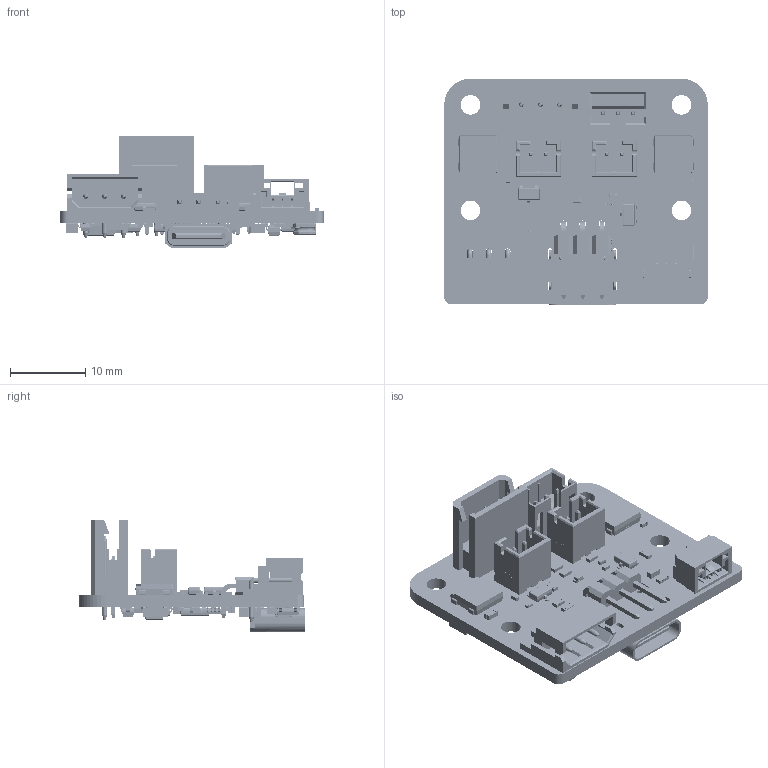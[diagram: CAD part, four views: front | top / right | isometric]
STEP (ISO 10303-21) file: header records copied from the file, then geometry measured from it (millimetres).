
FILE_DESCRIPTION(/* description */ ('Designed by EasyEDA Pro'),/* implementation_level */ '2;1');
FILE_NAME(/* name */ 'TTL_Node_(A).step',/* time_stamp */ '2025-12-19T19:39:16+08:00',/* author */ (''),/* organization */ (''),/* preprocessor_version */ 'ST-DEVELOPER v20.1',/* originating_system */ 'Autodesk Translation Framework v14.21.0.0',/* authorisation */ '');
FILE_SCHEMA (('AUTOMOTIVE_DESIGN { 1 0 10303 214 3 1 1 }'));
Products named in the file (60): EasyEDA PCB Model~BIor; Board~BIor; R14~R0402~R0402_L1.0-W0.5-H0.5~BIor; R0402~R0402_L1.0-W0.5-H0.5~BIor; D5~SOD-123_L2.8-W1.8-LS3.7-RD~SOD-123_L2.8-W1.8-LS3.7-RD~BIor; SOD-123_L2.8-W1.8-LS3.7-RD~SOD-123_L2.8-W1.8-LS3.7-RD~BIor; U3~SOT-89-3_L4.5-W2.5-P1.50-LS4.2-BR~SOT-89-3_L4.3-W2.5-H1.6-LS4.1-P1.
50~BIor; SOT-89-3_L4.5-W2.5-P1.50-LS4.2-BR~SOT-89-3_L4.3-W2.5-H1.6-LS4.1-P1.50
~BIor; Q1~PRPAK-8_L3.1-W3.2-P0.65-LS3.4-BL-EP2~PRPAK-8_L3.1-W3.2-P0.65-LS3.4
-BL-EP2~BIor; PRPAK-8_L3.1-W3.2-P0.65-LS3.4-BL-EP2~PRPAK-8_L3.1-W3.2-P0.65-LS3.4-BL
-EP2~BIor; D4~SOT-23_L2.9-W1.3-P1.90-LS2.4-BR~SOT-23-3P_L2.9-W1.3-H1.0-LS2.4-P0.
95~BIor; SOT-23_L2.9-W1.3-P1.90-LS2.4-BR~SOT-23-3P_L2.9-W1.3-H1.0-LS2.4-P0.95~
BIor; C9~C1206~C1206_L3.2-W1.6-H1.3~BIor; C1206~C1206_L3.2-W1.6-H1.3~BIor; U2~TQFN-16_L3.0-W3.0-P0.50-BL-EP1.7~TQFN-16_L3.0-W3.0-P0.50-BL-EP1.7~
BIor; TQFN-16_L3.0-W3.0-P0.50-BL-EP1.7~TQFN-16_L3.0-W3.0-P0.50-BL-EP1.7~BIo
r; USB1~USB-C-SMD_TYPE-C-6PIN-2MD-073~USB-C-SMD_TYPE-C-6PIN-2MD-073~BIor; USB-C-SMD_TYPE-C-6PIN-2MD-073~USB-C-SMD_TYPE-C-6PIN-2MD-073~BIor; U5~VSSOP-8_L2.3-W2.0-P0.50-LS3.1-BR~VSSOP-8_L2.3-W2.0-P0.50-LS3.1-BL~
BIor; VSSOP-8_L2.3-W2.0-P0.50-LS3.1-BR~VSSOP-8_L2.3-W2.0-P0.50-LS3.1-BL~BIo
r; LED~LED-SMD_4P-L1.6-W0.8-TL-RD-1~LED-SMD_4P-L1.6-W0.8-H0.6-TR-RD~BIor; LED-SMD_4P-L1.6-W0.8-TL-RD-1~LED-SMD_4P-L1.6-W0.8-H0.6-TR-RD~BIor; D7~SOD-123FL_L2.7-W1.8-LS3.8-RD~SOD-123FL_L2.8-W1.8-H1.1-LS3.6~BIor; SOD-123FL_L2.7-W1.8-LS3.8-RD~SOD-123FL_L2.8-W1.8-H1.1-LS3.6~BIor; CN1~CONN-TH_5264-3A~CONN-TH_5264-3A~BIor; CONN-TH_5264-3A~CONN-TH_5264-3A~BIor; CN4~CONN-SMD_3P-P1.25_BX-GH1.25-3PWT~CONN-SMD_3P-P1.25_BX-GH1.25-3PWT
~BIor; CONN-SMD_3P-P1.25_BX-GH1.25-3PWT~CONN-SMD_3P-P1.25_BX-GH1.25-3PWT~BIo
r; CN3~CONN-TH_PH2.0D-L-3P~CONN-TH_PH2.0D-L-3P~BIor; CONN-TH_PH2.0D-L-3P~CONN-TH_PH2.0D-L-3P~BIor; C23~C0603~C0603_L1.6-W0.8-H0.8~BIor; C0603~C0603_L1.6-W0.8-H0.8~BIor; CN2~CONN-TH_3P-P2.50_HCTL_HC-5264-3AW~CONN-TH_3P-P2.50_HCTL_HC-5264-3
AW~BIor; CONN-TH_3P-P2.50_HCTL_HC-5264-3AW~CONN-TH_3P-P2.50_HCTL_HC-5264-3AW~B
Ior; U1~QFN-20_L3.0-W3.0-P0.40-TL-EP1.7~QFN-20_L3.0-W3.0-H0.6-P0.40-BL~BIo
r; QFN-20_L3.0-W3.0-P0.40-TL-EP1.7~QFN-20_L3.0-W3.0-H0.6-P0.40-BL~BIor; CN7~HDR-TH_3P-P2.54-H-M-W10.4-N~HDR-TH_3P-P2.54-H-M-W10.4-N~BIor; HDR-TH_3P-P2.54-H-M-W10.4-N~HDR-TH_3P-P2.54-H-M-W10.4-N~BIor; L1~IND-SMD_L3.0-W3.0~IND-SMD_L3.0-W3.0-H1.5~BIor; IND-SMD_L3.0-W3.0~IND-SMD_L3.0-W3.0-H1.5~BIor ...
Assembly tree (103 placements, depth 3):
  EasyEDA PCB Model~BIor
    Board~BIor
    R17~R0603~R0603~BIor  x15
      R0603~R0603~BIor
    R14~R0402~R0402_L1.0-W0.5-H0.5~BIor
      R0402~R0402_L1.0-W0.5-H0.5~BIor
    D5~SOD-123_L2.8-W1.8-LS3.7-RD~SOD-123_L2.8-W1.8-LS3.7-RD~BIor
      SOD-123_L2.8-W1.8-LS3.7-RD~SOD-123_L2.8-W1.8-LS3.7-RD~BIor
    U3~SOT-89-3_L4.5-W2.5-P1.50-LS4.2-BR~SOT-89-3_L4.3-W2.5-H1.6-LS4.1-P1.
50~BIor
      SOT-89-3_L4.5-W2.5-P1.50-LS4.2-BR~SOT-89-3_L4.3-W2.5-H1.6-LS4.1-P1.50
~BIor
    Q1~PRPAK-8_L3.1-W3.2-P0.65-LS3.4-BL-EP2~PRPAK-8_L3.1-W3.2-P0.65-LS3.4
-BL-EP2~BIor
      PRPAK-8_L3.1-W3.2-P0.65-LS3.4-BL-EP2~PRPAK-8_L3.1-W3.2-P0.65-LS3.4-BL
-EP2~BIor
    C10~C0402~C0402_L1.0-W0.5-H0.5~BIor  x16
      C0402~C0402_L1.0-W0.5-H0.5~BIor
    D4~SOT-23_L2.9-W1.3-P1.90-LS2.4-BR~SOT-23-3P_L2.9-W1.3-H1.0-LS2.4-P0.
95~BIor
      SOT-23_L2.9-W1.3-P1.90-LS2.4-BR~SOT-23-3P_L2.9-W1.3-H1.0-LS2.4-P0.95~
BIor
    C9~C1206~C1206_L3.2-W1.6-H1.3~BIor
      C1206~C1206_L3.2-W1.6-H1.3~BIor
    F2~F0603~F0603_L1.7-W0.9-H0.7~BIor  x2
      F0603~F0603_L1.7-W0.9-H0.7~BIor
    D9~SOT-23-3_L2.9-W1.6-P1.90-LS2.8-BR~SOT-23-3L_L2.9-W1.6-H1.1-LS2.8-P
0.95~BIor  x5
      SOT-23-3_L3.0-W1.7-P0.95-LS2.9-BR~SOT-23-3L_L2.9-W1.6-H1.1-LS2.8-P0.9
5~BIor
    C12~C0805~C0805_L2.0-W1.3-H1.3~BIor  x5
      C0805~C0805_L2.0-W1.3-H1.3~BIor
    U2~TQFN-16_L3.0-W3.0-P0.50-BL-EP1.7~TQFN-16_L3.0-W3.0-P0.50-BL-EP1.7~
BIor
      TQFN-16_L3.0-W3.0-P0.50-BL-EP1.7~TQFN-16_L3.0-W3.0-P0.50-BL-EP1.7~BIo
r
    R3~R0402~R0402_L1.0-W0.5-H0.4~BIor  x4
      R0402~R0402_L1.0-W0.5-H0.4~BIor
    USB1~USB-C-SMD_TYPE-C-6PIN-2MD-073~USB-C-SMD_TYPE-C-6PIN-2MD-073~BIor
      USB-C-SMD_TYPE-C-6PIN-2MD-073~USB-C-SMD_TYPE-C-6PIN-2MD-073~BIor
    U5~VSSOP-8_L2.3-W2.0-P0.50-LS3.1-BR~VSSOP-8_L2.3-W2.0-P0.50-LS3.1-BL~
BIor
      VSSOP-8_L2.3-W2.0-P0.50-LS3.1-BR~VSSOP-8_L2.3-W2.0-P0.50-LS3.1-BL~BIo
r
    LED~LED-SMD_4P-L1.6-W0.8-TL-RD-1~LED-SMD_4P-L1.6-W0.8-H0.6-TR-RD~BIor
      LED-SMD_4P-L1.6-W0.8-TL-RD-1~LED-SMD_4P-L1.6-W0.8-H0.6-TR-RD~BIor
    D7~SOD-123FL_L2.7-W1.8-LS3.8-RD~SOD-123FL_L2.8-W1.8-H1.1-LS3.6~BIor
      SOD-123FL_L2.7-W1.8-LS3.8-RD~SOD-123FL_L2.8-W1.8-H1.1-LS3.6~BIor
    CN1~CONN-TH_5264-3A~CONN-TH_5264-3A~BIor
      CONN-TH_5264-3A~CONN-TH_5264-3A~BIor
    CN6~CONN-TH_2P-P2.00_HC-PH-2A-M~CONN-TH_2P-P2.00_HC-PH-2A-M~BIor  x2
      CONN-TH_2P-P2.00_HC-PH-2A-M~CONN-TH_2P-P2.00_HC-PH-2A-M~BIor
    CN4~CONN-SMD_3P-P1.25_BX-GH1.25-3PWT~CONN-SMD_3P-P1.25_BX-GH1.25-3PWT
~BIor
      CONN-SMD_3P-P1.25_BX-GH1.25-3PWT~CONN-SMD_3P-P1.25_BX-GH1.25-3PWT~BIo
r
    CN3~CONN-TH_PH2.0D-L-3P~CONN-TH_PH2.0D-L-3P~BIor
      CONN-TH_PH2.0D-L-3P~CONN-TH_PH2.0D-L-3P~BIor
    C23~C0603~C0603_L1.6-W0.8-H0.8~BIor
      C0603~C0603_L1.6-W0.8-H0.8~BIor
    CN2~CONN-TH_3P-P2.50_HCTL_HC-5264-3AW~CONN-TH_3P-P2.50_HCTL_HC-5264-3
AW~BIor
      CONN-TH_3P-P2.50_HCTL_HC-5264-3AW~CONN-TH_3P-P2.50_HCTL_HC-5264-3AW~B
Ior
    U1~QFN-20_L3.0-W3.0-P0.40-TL-EP1.7~QFN-20_L3.0-W3.0-H0.6-P0.40-BL~BIo
r
      QFN-20_L3.0-W3.0-P0.40-TL-EP1.7~QFN-20_L3.0-W3.0-H0.6-P0.40-BL~BIor
    RGB1~LED-SMD_4P-L5.0-W5.0-BL_XL-5050RGBC~LED-SMD_4P-L5.0-W5.0-BL_XL-5
050RGBC~BIor  x2
      LED-SMD_4P-L5.0-W5.0-BL_XL-5050RGBC~LED-SMD_4P-L5.0-W5.0-BL_XL-5050RG
BC~BIor
    D3~DFN1006-2L-BI~DFN1006-2L-BI~BIor  x2
      DFN1006-2L-BI~DFN1006-2L-BI~BIor
    CN7~HDR-TH_3P-P2.54-H-M-W10.4-N~HDR-TH_3P-P2.54-H-M-W10.4-N~BIor
      HDR-TH_3P-P2.54-H-M-W10.4-N~HDR-TH_3P-P2.54-H-M-W10.4-N~BIor
    L1~IND-SMD_L3.0-W3.0~IND-SMD_L3.0-W3.0-H1.5~BIor
      IND-SMD_L3.0-W3.0~IND-SMD_L3.0-W3.0-H1.5~BIor
    U6~SOT-23-6_L2.9-W1.6-P0.95-LS2.8-BL~SOT-23-6_L2.9-W1.6-H1.5-LS2.8-P0.
95~BIor
      SOT-23-6_L2.9-W1.6-P0.95-LS2.8-BL~SOT-23-6_L2.9-W1.6-H1.5-LS2.8-P0.95
~BIor
Bounding box: 34.97 x 30.1 x 14.86 mm (x, y, z)
Volume: 2784.8 mm3; surface area: 6320.4 mm2
Topology: 260 solids, 260 shells, 23644 faces, 63414 edges, 41629 vertices
Faces by surface type: plane 14052, bspline 7135, cylinder 2036, sphere 296, torus 83, cone 42
Full cylindrical faces by diameter (mm): 0.15 x2, 0.2 x2, 0.248 x1, 0.25 x6, 0.261 x1, 0.4 x1, 0.5 x2, 0.6 x6, 0.7 x11, 0.8 x13, 0.9 x3, 2.6 x4
Entity records: 354036 total; most frequent: CARTESIAN_POINT 104986, ORIENTED_EDGE 53638, DIRECTION 42156, EDGE_CURVE 26819, LINE 18950, VECTOR 18950, VERTEX_POINT 17692, AXIS2_PLACEMENT_3D 11603
